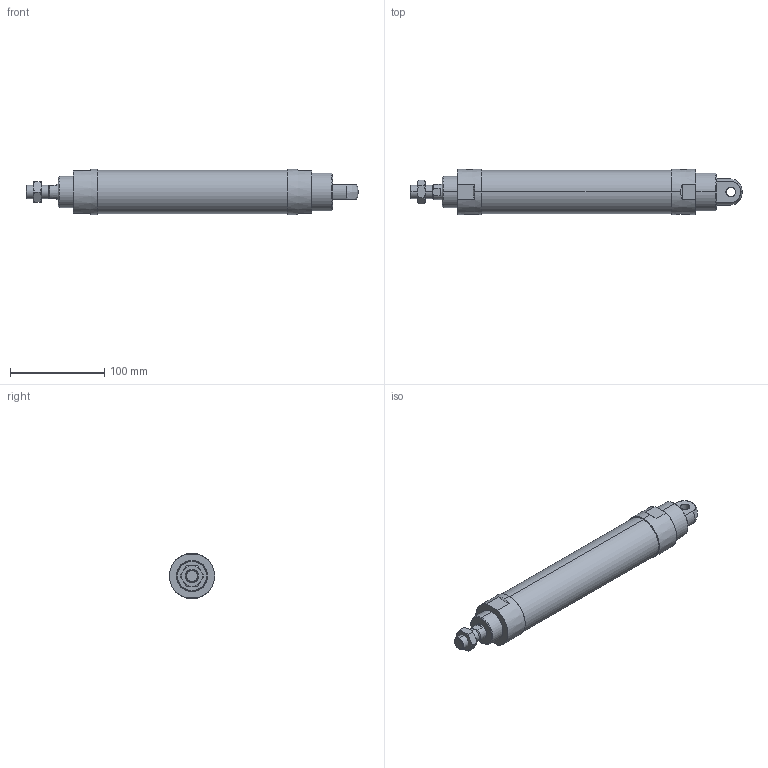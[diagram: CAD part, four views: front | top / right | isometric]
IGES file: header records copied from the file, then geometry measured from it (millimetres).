
Start section: SolidWorks IGES file using analytic representation for surfaces
Global section: file name: C:\Users\Toshiba\Desktop\J#2-40-150-C.IGS; native system: SolidWorks 2014; preprocessor: SolidWorks 2014; author: Toshiba; date: 160308.160139; units: millimetre
Bounding box: 352 x 48 x 48 mm (x, y, z)
Surface area: 51401.7 mm2 (no closed solid volume)
Topology: 0 solids, 0 shells, 81 faces, 1622 edges, 1618 vertices
Faces by surface type: bspline 42, revolution 39
